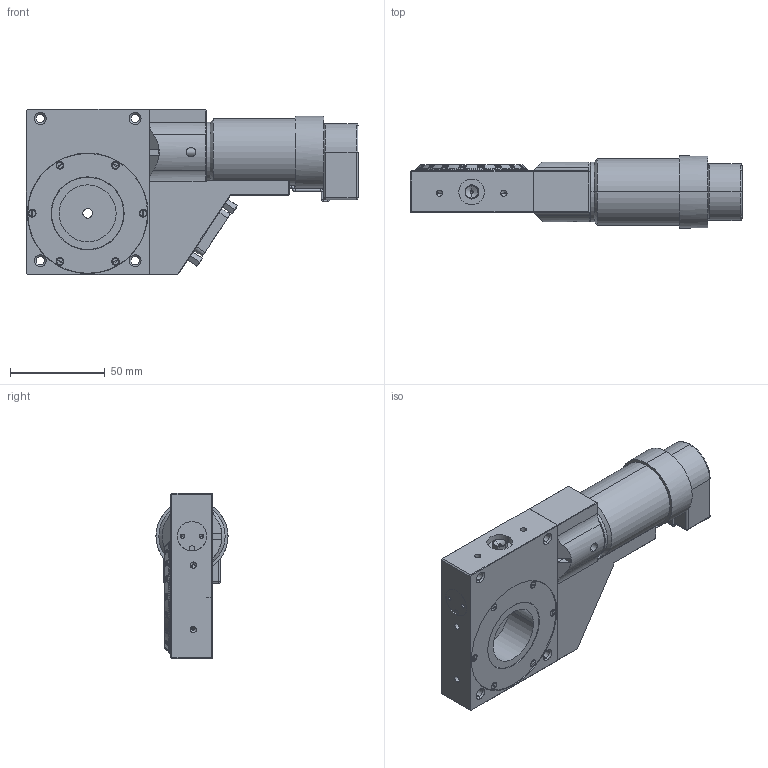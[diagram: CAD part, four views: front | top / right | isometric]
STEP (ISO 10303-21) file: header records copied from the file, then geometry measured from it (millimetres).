
FILE_DESCRIPTION (( 'STEP AP203' ), '1' );
FILE_NAME ('43.065.06GF.step', '2011-09-07T09:12:31', ( 'Standard' ), ( '' ), 'SwSTEP 2.0', 'SolidWorks 2008', '' );
FILE_SCHEMA (( 'CONFIG_CONTROL_DESIGN' ));
Products named in the file (1): 43.065.06GF
Bounding box: 175 x 38 x 87.5 mm (x, y, z)
Volume: 205334 mm3; surface area: 79153.3 mm2
Topology: 2 solids, 14 shells, 2871 faces, 7236 edges, 4564 vertices
Faces by surface type: plane 1395, cylinder 612, bspline 544, cone 259, torus 52, sphere 9
Entity records: 108576 total; most frequent: CARTESIAN_POINT 44422, ORIENTED_EDGE 14290, DIRECTION 11711, EDGE_CURVE 7145, VERTEX_POINT 4553, AXIS2_PLACEMENT_3D 4175, VECTOR 3361, LINE 3361
